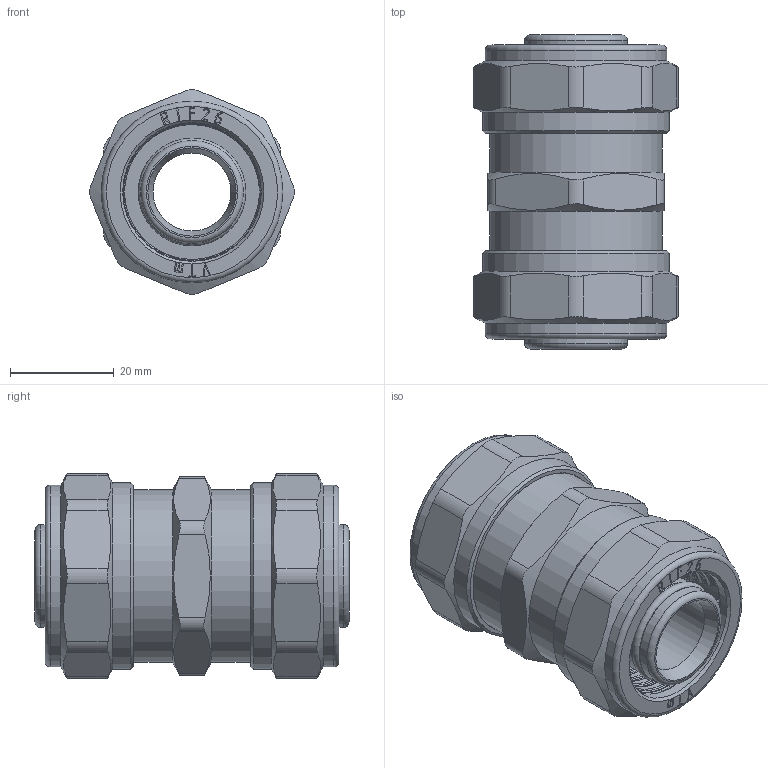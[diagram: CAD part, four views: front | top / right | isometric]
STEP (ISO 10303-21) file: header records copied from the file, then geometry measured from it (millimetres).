
FILE_DESCRIPTION(('STEP AP203'), '1');
FILE_NAME('VTm.303.N.002626', '', ('UNSPECIFIED'), ('UNSPECIFIED'), 'C3D Converter', 'C3D Toolkit', '');
FILE_SCHEMA(('CONFIG_CONTROL_DESIGN'));
Length unit declared in the file: millimetre
Products named in the file (1): ВР.302634.073.000 СБ
Bounding box: 39.39 x 60.5 x 39.39 mm (x, y, z)
Volume: 36495.2 mm3; surface area: 22955.3 mm2
Topology: 1 solids, 1 shells, 601 faces, 1636 edges, 1079 vertices
Faces by surface type: extrusion 246, plane 196, cylinder 75, torus 58, cone 26
Full cylindrical faces by diameter (mm): 15 x1, 17.4 x8, 19.8 x10, 20 x2, 26.2 x2, 26.7 x2, 30.292 x2, 33.249 x2, 35 x2, 36 x2
Entity records: 23002 total; most frequent: CARTESIAN_POINT 9364, ORIENTED_EDGE 3110, DIRECTION 1988, EDGE_CURVE 1555, VERTEX_POINT 1079, B_SPLINE_CURVE_WITH_KNOTS 916, VECTOR 906, EDGE_LOOP 726
